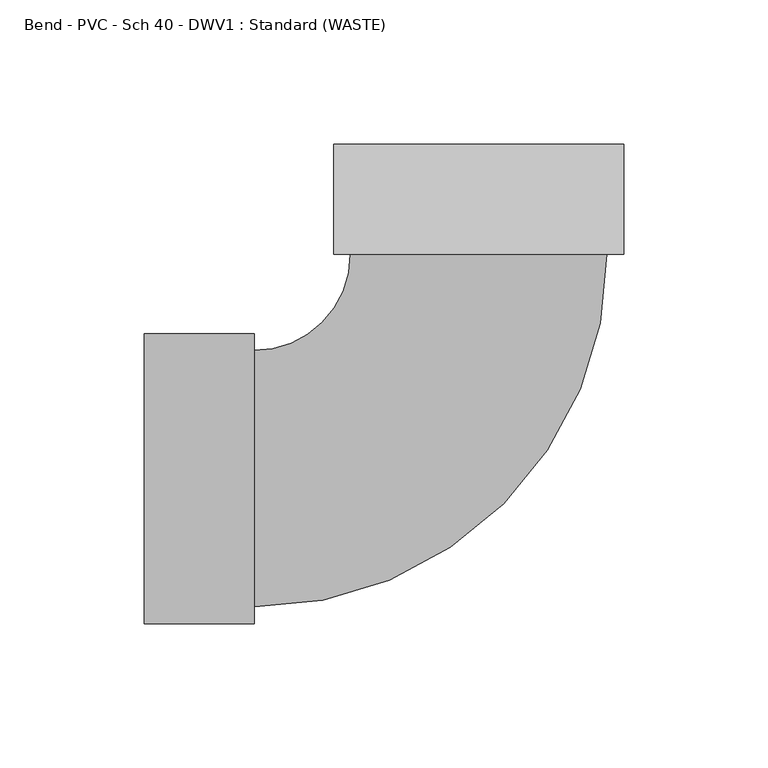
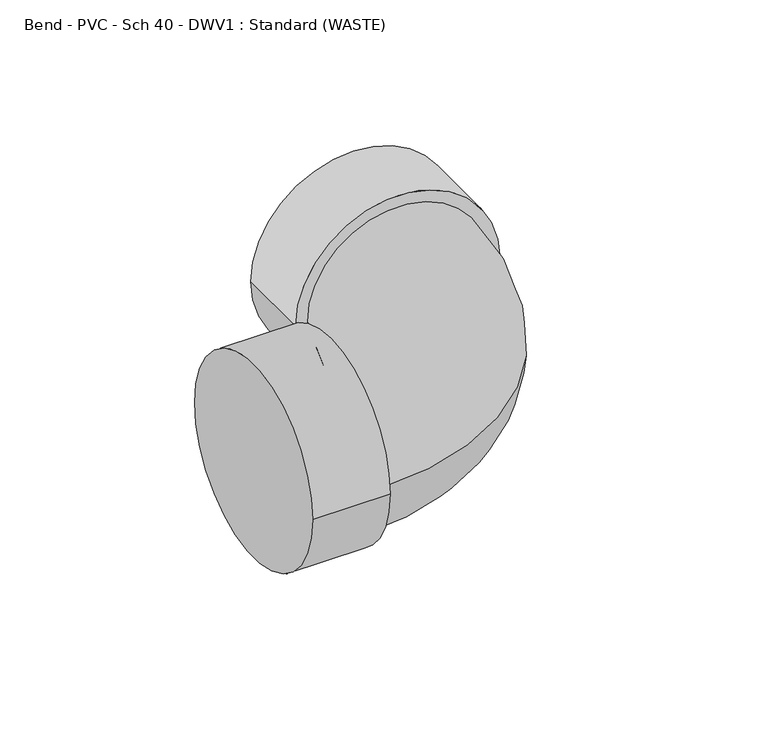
"""IFC4 building model written with IfcOpenShell, lengths in millimetres: pipe fitting geometry, Bend - PVC - Sch 40 - DWV1 : Standard (WASTE)."""

from ifc_helpers import new_model, si_unit, point, frame, origin, place, context, project, spatial, circle_curve, ellipse_curve, trimmed, source, transform, mapped, element, save
from ifc_brep_helpers import plane_surface, cylinder_surface, revolved_surface, advanced_brep


def bend_pvc_sch_40_dwv1_standard_waste_dfb923bd(model_context):
    return source(origin(), model_context, "Body", "AdvancedBrep", [
        advanced_brep(
        [(-115.9002, -50.2666, 0.0), (-115.9002, 50.2666, 0.0), (-77.8002, -50.2666, 0.0), (-77.8002, 50.2666, 0.0), (-77.8002, -44.45, 0.0), (-77.8002, 44.45, 0.0), (-44.45, 77.8002, 0.0), (44.45, 77.8002, 0.0), (50.2666, 77.8002, 0.0), (-50.2666, 77.8002, 0.0), (50.2666, 115.9002, 0.0), (-50.2666, 115.9002, 0.0)],
        [
            (0, 1, circle_curve(frame((-115.9002, 0.0, 0.0), z_axis=(-1.0, 0.0, 0.0), x_axis=(0.0, 1.0, 0.0)), 50.2666)),
            (1, 0, circle_curve(frame((-115.9002, 0.0, 0.0), z_axis=(-1.0, 0.0, 0.0), x_axis=(0.0, 1.0, 0.0)), 50.2666)),
            (2, 3, circle_curve(frame((-77.8002, 0.0, 0.0), z_axis=(1.0, 0.0, 0.0), x_axis=(0.0, 1.0, 0.0)), 50.2666)),
            (3, 2, circle_curve(frame((-77.8002, 0.0, 0.0), z_axis=(1.0, 0.0, 0.0), x_axis=(0.0, 1.0, 0.0)), 50.2666)),
            (4, 5, circle_curve(frame((-77.8002, 0.0, 0.0), z_axis=(-1.0, 0.0, 0.0), x_axis=(0.0, 1.0, 0.0)), 44.45)),
            (5, 4, circle_curve(frame((-77.8002, 0.0, 0.0), z_axis=(-1.0, 0.0, 0.0), x_axis=(0.0, 1.0, 0.0)), 44.45)),
            (0, 2),
            (3, 1),
            (6, 5, circle_curve(frame((-77.8002, 77.8002, 0.0), z_axis=(0.0, 0.0, -1.0), x_axis=(0.0, -1.0, 0.0)), 33.3502)),
            (4, 7, circle_curve(frame((-77.8002, 77.8002, 0.0), z_axis=(0.0, 0.0, 1.0), x_axis=(0.0, -1.0, 0.0)), 122.2502)),
            (7, 6, circle_curve(frame((0.0, 77.8002, 0.0), z_axis=(0.0, -1.0, 0.0), x_axis=(-1.0, 0.0, 0.0)), 44.45)),
            (6, 7, circle_curve(frame((0.0, 77.8002, 0.0), z_axis=(0.0, -1.0, 0.0), x_axis=(-1.0, 0.0, 0.0)), 44.45)),
            (8, 9, circle_curve(frame((0.0, 77.8002, 0.0), z_axis=(0.0, -1.0, 0.0), x_axis=(-1.0, 0.0, 0.0)), 50.2666)),
            (9, 8, circle_curve(frame((0.0, 77.8002, 0.0), z_axis=(0.0, -1.0, 0.0), x_axis=(-1.0, 0.0, 0.0)), 50.2666)),
            (10, 11, circle_curve(frame((0.0, 115.9002, 0.0), z_axis=(0.0, 1.0, 0.0), x_axis=(-1.0, 0.0, 0.0)), 50.2666)),
            (11, 10, circle_curve(frame((0.0, 115.9002, 0.0), z_axis=(0.0, 1.0, 0.0), x_axis=(-1.0, 0.0, 0.0)), 50.2666)),
            (8, 10),
            (11, 9),
        ],
        [
            plane_surface(frame((-115.9002, 0.0, 0.0), z_axis=(-1.0, 0.0, 0.0), x_axis=(0.0, 0.0, 1.0))),
            plane_surface(frame((-77.8002, 0.0, 0.0), z_axis=(1.0, 0.0, 0.0), x_axis=(0.0, 0.0, 1.0))),
            cylinder_surface(frame((-115.9002, 0.0, 0.0), z_axis=(-1.0, 0.0, 0.0), x_axis=(0.0, 1.0, 0.0)), 50.2666),
            revolved_surface(trimmed(ellipse_curve(frame((-77.8002, 0.0, 0.0), z_axis=(-1.0, 0.0, 0.0), x_axis=(0.0, 1.0, 0.0)), 44.45, 44.45), [point((-77.8002, -44.45, 0.0))], [point((-77.8002, 44.45, 0.0))], True, "CARTESIAN"), (-77.8002, 77.8002, 0.0), (0.0, 0.0, 1.0)),
            revolved_surface(trimmed(ellipse_curve(frame((-77.8002, 0.0, 0.0), z_axis=(-1.0, 0.0, 0.0), x_axis=(0.0, 1.0, 0.0)), 44.45, 44.45), [point((-77.8002, 44.45, 0.0))], [point((-77.8002, -44.45, 0.0))], True, "CARTESIAN"), (-77.8002, 77.8002, 0.0), (0.0, 0.0, 1.0)),
            plane_surface(frame((0.0, 77.8002, 0.0), z_axis=(0.0, -1.0, 0.0), x_axis=(0.0, 0.0, 1.0))),
            plane_surface(frame((0.0, 115.9002, 0.0), z_axis=(0.0, 1.0, 0.0), x_axis=(0.0, 0.0, 1.0))),
            cylinder_surface(frame((0.0, 77.8002, 0.0), z_axis=(0.0, -1.0, 0.0), x_axis=(-1.0, 0.0, 0.0)), 50.2666),
        ],
        [
            (0, [[1, 2]]),
            (1, [[3, 4], [5, 6]]),
            (2, [[-1, 7, -4, 8]]),
            (2, [[-2, -8, -3, -7]]),
            (3, [[9, -5, 10, 11]]),
            (4, [[-9, 12, -10, -6]]),
            (5, [[13, 14], [-11, -12]]),
            (6, [[15, 16]]),
            (7, [[-13, 17, -16, 18]]),
            (7, [[-14, -18, -15, -17]]),
        ],
    ),
        advanced_brep(
        [(-115.9002, -50.2666, 0.0), (-115.9002, 50.2666, 0.0), (-77.8002, -50.2666, 0.0), (-77.8002, 50.2666, 0.0), (-77.8002, -44.45, 0.0), (-77.8002, 44.45, 0.0), (-50.2666, 115.9002, 0.0), (50.2666, 115.9002, 0.0), (-50.2666, 77.8002, 0.0), (50.2666, 77.8002, 0.0), (-44.45, 77.8002, 0.0), (44.45, 77.8002, 0.0)],
        [
            (0, 1, circle_curve(frame((-115.9002, 0.0, 0.0), z_axis=(-1.0, 0.0, 0.0), x_axis=(0.0, 1.0, 0.0)), 50.2666)),
            (1, 0, circle_curve(frame((-115.9002, 0.0, 0.0), z_axis=(-1.0, 0.0, 0.0), x_axis=(0.0, 1.0, 0.0)), 50.2666)),
            (2, 3, circle_curve(frame((-77.8002, 0.0, 0.0), z_axis=(1.0, 0.0, 0.0), x_axis=(0.0, 1.0, 0.0)), 50.2666)),
            (3, 2, circle_curve(frame((-77.8002, 0.0, 0.0), z_axis=(1.0, 0.0, 0.0), x_axis=(0.0, 1.0, 0.0)), 50.2666)),
            (4, 5, circle_curve(frame((-77.8002, 0.0, 0.0), z_axis=(-1.0, 0.0, 0.0), x_axis=(0.0, 1.0, 0.0)), 44.45)),
            (5, 4, circle_curve(frame((-77.8002, 0.0, 0.0), z_axis=(-1.0, 0.0, 0.0), x_axis=(0.0, 1.0, 0.0)), 44.45)),
            (0, 2),
            (3, 1),
            (6, 7, circle_curve(frame((0.0, 115.9002, 0.0), z_axis=(0.0, 1.0, 0.0), x_axis=(1.0, 0.0, 0.0)), 50.2666)),
            (7, 6, circle_curve(frame((0.0, 115.9002, 0.0), z_axis=(0.0, 1.0, 0.0), x_axis=(1.0, 0.0, 0.0)), 50.2666)),
            (8, 9, circle_curve(frame((0.0, 77.8002, 0.0), z_axis=(0.0, -1.0, 0.0), x_axis=(1.0, 0.0, 0.0)), 50.2666)),
            (9, 8, circle_curve(frame((0.0, 77.8002, 0.0), z_axis=(0.0, -1.0, 0.0), x_axis=(1.0, 0.0, 0.0)), 50.2666)),
            (10, 11, circle_curve(frame((0.0, 77.8002, 0.0), z_axis=(0.0, 1.0, 0.0), x_axis=(-1.0, 0.0, 0.0)), 44.45)),
            (11, 10, circle_curve(frame((0.0, 77.8002, 0.0), z_axis=(0.0, 1.0, 0.0), x_axis=(-1.0, 0.0, 0.0)), 44.45)),
            (6, 8),
            (9, 7),
            (10, 5, circle_curve(frame((-77.8002, 77.8002, 0.0), z_axis=(0.0, 0.0, -1.0), x_axis=(0.0, -1.0, 0.0)), 33.3502)),
            (4, 11, circle_curve(frame((-77.8002, 77.8002, 0.0), z_axis=(0.0, 0.0, 1.0), x_axis=(0.0, -1.0, 0.0)), 122.2502)),
        ],
        [
            plane_surface(frame((-115.9002, 0.0, 0.0), z_axis=(-1.0, 0.0, 0.0), x_axis=(0.0, 0.0, 1.0))),
            plane_surface(frame((-77.8002, 0.0, 0.0), z_axis=(1.0, 0.0, 0.0), x_axis=(0.0, 0.0, 1.0))),
            cylinder_surface(frame((-115.9002, 0.0, 0.0), z_axis=(-1.0, 0.0, 0.0), x_axis=(0.0, 1.0, 0.0)), 50.2666),
            plane_surface(frame((0.0, 115.9002, 0.0), z_axis=(0.0, 1.0, 0.0), x_axis=(0.0, 0.0, 1.0))),
            plane_surface(frame((0.0, 77.8002, 0.0), z_axis=(0.0, -1.0, 0.0), x_axis=(0.0, 0.0, 1.0))),
            cylinder_surface(frame((0.0, 115.9002, 0.0), z_axis=(0.0, 1.0, 0.0), x_axis=(1.0, 0.0, 0.0)), 50.2666),
            revolved_surface(trimmed(ellipse_curve(frame((-77.8002, 0.0, 0.0), z_axis=(-1.0, 0.0, 0.0), x_axis=(0.0, 1.0, 0.0)), 44.45, 44.45), [point((-77.8002, -44.45, 0.0))], [point((-77.8002, 44.45, 0.0))], True, "CARTESIAN"), (-77.8002, 77.8002, 0.0), (0.0, 0.0, 1.0)),
            revolved_surface(trimmed(ellipse_curve(frame((-77.8002, 0.0, 0.0), z_axis=(-1.0, 0.0, 0.0), x_axis=(0.0, 1.0, 0.0)), 44.45, 44.45), [point((-77.8002, 44.45, 0.0))], [point((-77.8002, -44.45, 0.0))], True, "CARTESIAN"), (-77.8002, 77.8002, 0.0), (0.0, 0.0, 1.0)),
        ],
        [
            (0, [[1, 2]]),
            (1, [[3, 4], [5, 6]]),
            (2, [[-1, 7, -4, 8]]),
            (2, [[-2, -8, -3, -7]]),
            (3, [[9, 10]]),
            (4, [[11, 12], [13, 14]]),
            (5, [[-9, 15, -12, 16]]),
            (5, [[-10, -16, -11, -15]]),
            (6, [[17, -5, 18, -13]]),
            (7, [[-17, -14, -18, -6]]),
        ],
    ),
    ])


if __name__ == "__main__":
    model = new_model("IFC4")
    model_context = context("Model", 3, world=origin())
    ifc_project = project(units=[si_unit("LENGTHUNIT", "METRE", prefix="MILLI")], contexts=[model_context])
    site = spatial("IfcSite", under=ifc_project)
    building = spatial("IfcBuilding", under=site)
    placement = place(None, origin())
    bend_pvc_sch_40_dwv1_standard_waste_shape = bend_pvc_sch_40_dwv1_standard_waste_dfb923bd(model_context)
    element("IfcPipeFitting", 1, ObjectType="Bend - PVC - Sch 40 - DWV1 : Standard (WASTE)", at=placement, inside=building, context=model_context, shape_type="MappedRepresentation", body=[
        mapped(bend_pvc_sch_40_dwv1_standard_waste_shape, transform((0.0, 0.0, 0.0), x_axis=(1.0, 0.0, 0.0), y_axis=(0.0, 1.0, 0.0), z_axis=(0.0, 0.0, 1.0))),
    ])
    save(model, "model.ifc")
